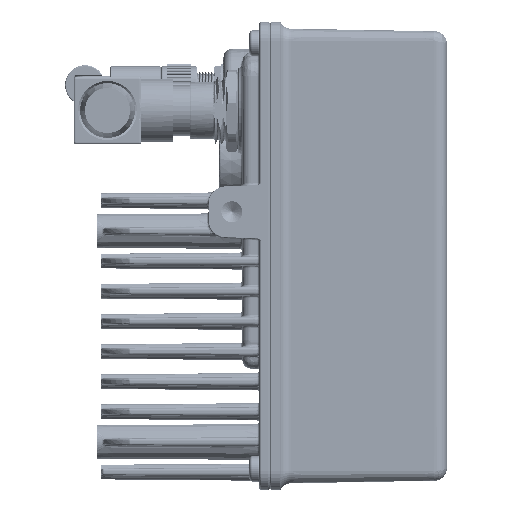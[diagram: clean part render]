
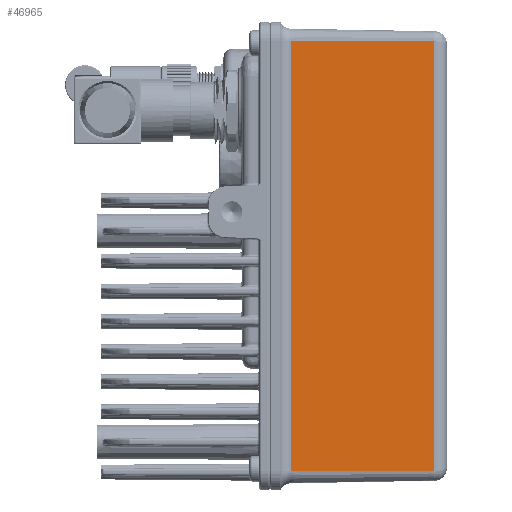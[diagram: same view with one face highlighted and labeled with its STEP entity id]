
A CAD part, front view. The second image highlights one B-rep face of the part: STEP entity #46965.
In plain terms, the highlighted planar face has unit normal (0.018, -1, 0).
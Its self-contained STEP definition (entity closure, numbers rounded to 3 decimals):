
#5095=FACE_OUTER_BOUND('',#7933,.T.);
#7933=EDGE_LOOP('',(#31821,#31822,#31823,#31824));
#10336=LINE('',#67112,#12469);
#10922=LINE('',#70152,#13055);
#10942=LINE('',#70556,#13075);
#10951=LINE('',#70576,#13084);
#12469=VECTOR('',#54498,10.);
#13055=VECTOR('',#57566,3.);
#13075=VECTOR('',#57710,10.);
#13084=VECTOR('',#57741,10.);
#17445=VERTEX_POINT('',#67061);
#17446=VERTEX_POINT('',#67111);
#18365=VERTEX_POINT('',#70139);
#18368=VERTEX_POINT('',#70150);
#21814=EDGE_CURVE('',#17445,#17446,#10336,.T.);
#23198=EDGE_CURVE('',#18368,#18365,#10922,.T.);
#23257=EDGE_CURVE('',#18365,#17445,#10942,.T.);
#23266=EDGE_CURVE('',#18368,#17446,#10951,.T.);
#31821=ORIENTED_EDGE('',*,*,#23198,.F.);
#31822=ORIENTED_EDGE('',*,*,#23266,.T.);
#31823=ORIENTED_EDGE('',*,*,#21814,.F.);
#31824=ORIENTED_EDGE('',*,*,#23257,.F.);
#43186=PLANE('',#50629);
#46965=ADVANCED_FACE('',(#5095),#43186,.T.);
#50629=AXIS2_PLACEMENT_3D('',#70575,#57739,#57740);
#54498=DIRECTION('',(0.,0.,-1.));
#57566=DIRECTION('',(0.,0.,1.));
#57710=DIRECTION('',(1.,0.017,0.));
#57739=DIRECTION('center_axis',(0.017,-1.,0.));
#57740=DIRECTION('ref_axis',(0.,0.,-1.));
#57741=DIRECTION('',(1.,0.017,0.));
#67061=CARTESIAN_POINT('',(16.552,-35.318,40.5));
#67111=CARTESIAN_POINT('',(16.552,-35.318,-61.5));
#67112=CARTESIAN_POINT('',(16.552,-35.318,-36.));
#70139=CARTESIAN_POINT('',(-17.405,-35.911,40.5));
#70150=CARTESIAN_POINT('',(-17.405,-35.911,-61.5));
#70152=CARTESIAN_POINT('',(-17.405,-35.911,40.5));
#70556=CARTESIAN_POINT('',(-22.5,-36.,40.5));
#70575=CARTESIAN_POINT('Origin',(-22.5,-36.,-61.5));
#70576=CARTESIAN_POINT('',(-22.5,-36.,-61.5));
